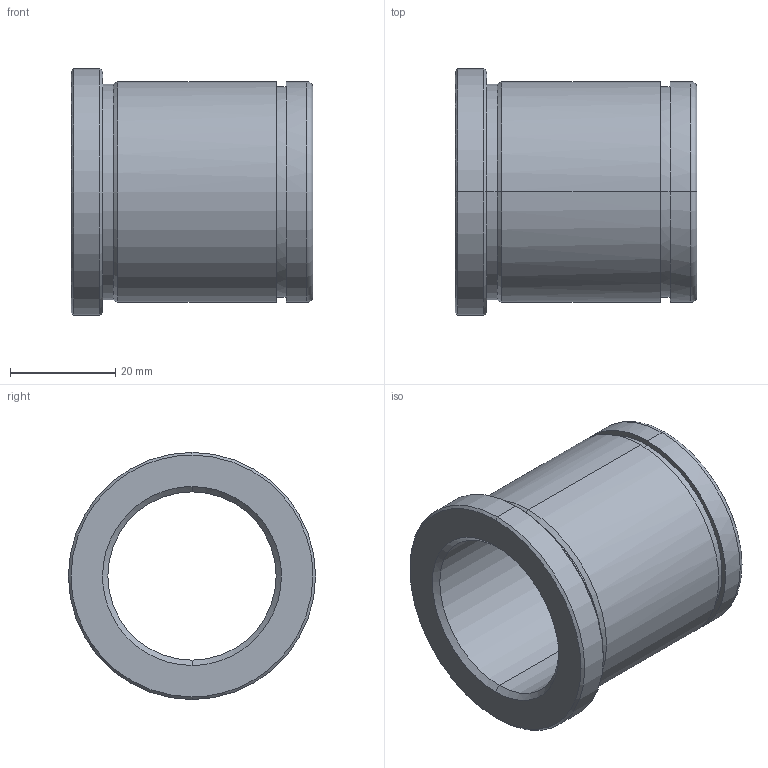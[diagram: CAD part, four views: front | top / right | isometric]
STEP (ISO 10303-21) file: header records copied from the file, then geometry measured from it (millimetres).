
FILE_DESCRIPTION(('CATIA V5 STEP Exchange'),'2;1');
FILE_NAME('C:\Users\Utente\Desktop\IO LAVORO\3D X SITO CF\X SITO\PLASTICA\553\553-32X46.stp','2021-05-26T18:46:46+00:00',('none'),('none'),'CATIA Version 5 Release 20 GA (IN-10)','CATIA V5 STEP AP203','none');
FILE_SCHEMA(('CONFIG_CONTROL_DESIGN'));
Length unit declared in the file: millimetre
Products named in the file (1): 553-32X46
Bounding box: 46 x 47 x 47 mm (x, y, z)
Volume: 28167.2 mm3; surface area: 12652.2 mm2
Topology: 1 solids, 1 shells, 29 faces, 92 edges, 68 vertices
Faces by surface type: cylinder 12, cone 8, plane 5, torus 4
Entity records: 1228 total; most frequent: CARTESIAN_POINT 378, ORIENTED_EDGE 184, DIRECTION 134, EDGE_CURVE 92, AXIS2_PLACEMENT_3D 86, VERTEX_POINT 68, CIRCLE 56, EDGE_LOOP 34
